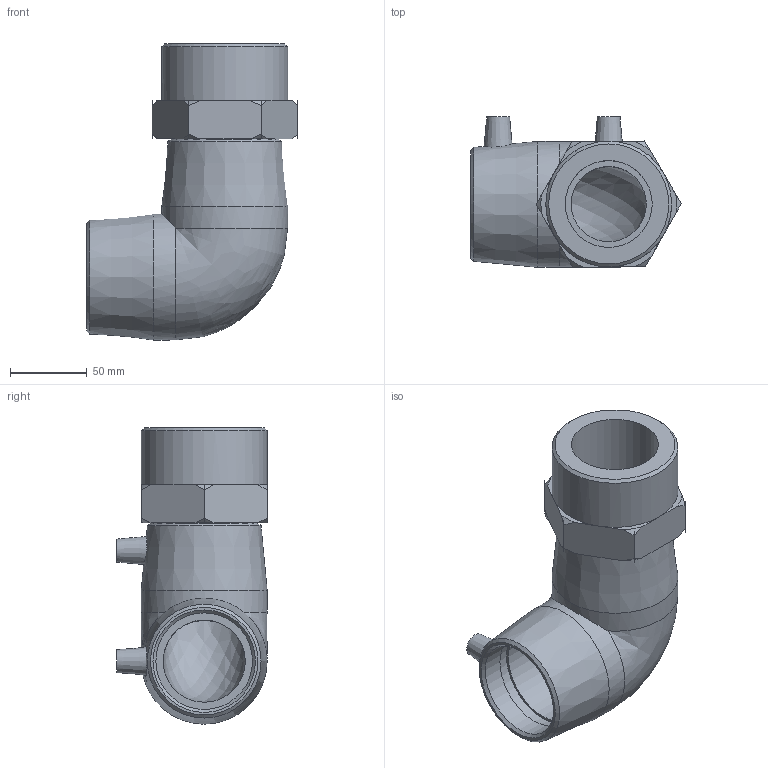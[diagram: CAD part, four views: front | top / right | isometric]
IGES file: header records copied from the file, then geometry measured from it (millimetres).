
Global section: file name: 493504063020N.ipt; native system: Autodesk Inventor 2015; preprocessor: unknown; author: KIM; date: 20200202.123508; units: millimetre
Bounding box: 137.34 x 98.11 x 193 mm (x, y, z)
Volume: 627131 mm3; surface area: 113811.9 mm2
Topology: 1 solids, 2 shells, 88 faces, 227 edges, 150 vertices
Faces by surface type: plane 39, revolution 22, cone 19, cylinder 7, bspline 1
Full cylindrical faces by diameter (mm): 4 x2, 63 x2, 82 x3
